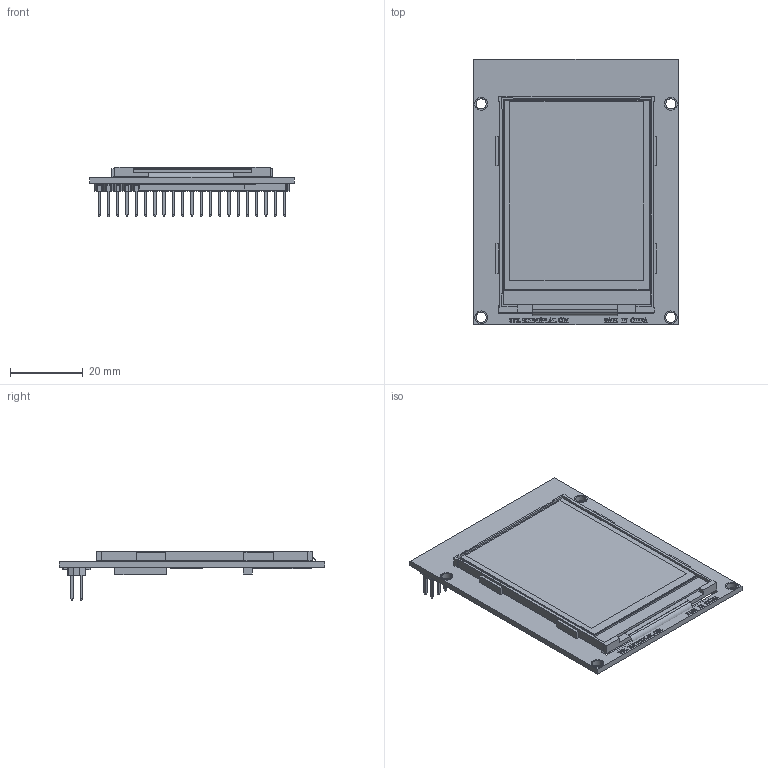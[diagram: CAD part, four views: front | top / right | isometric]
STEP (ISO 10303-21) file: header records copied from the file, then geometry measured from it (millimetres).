
FILE_DESCRIPTION (( 'STEP AP214' ), '1' );
FILE_NAME ('ER-TFTM024-3.STEP', '2024-06-07T03:41:53', ( '微软用户' ), ( '微软中国' ), 'SwSTEP 2.0', 'SolidWorks 2023', '' );
FILE_SCHEMA (( 'AUTOMOTIVE_DESIGN' ));
Length unit declared in the file: millimetre
Products named in the file (5): ER-TFT024-3; ER-TFTM024-3; 贴片排针2x20P; 2.4PCBA; buydisplay_logo_z
Assembly tree (4 placements, depth 2):
  ER-TFTM024-3
    2.4PCBA
    ER-TFT024-3
    贴片排针2x20P
    buydisplay_logo_z
Bounding box: 56 x 72.7 x 13.49 mm (x, y, z)
Volume: 13737.8 mm3; surface area: 23451.3 mm2
Topology: 185 solids, 185 shells, 2687 faces, 6755 edges, 4448 vertices
Faces by surface type: plane 2034, bspline 511, cylinder 142
Entity records: 104791 total; most frequent: CARTESIAN_POINT 37396, ORIENTED_EDGE 13510, DIRECTION 10391, EDGE_CURVE 6755, LINE 5433, VECTOR 5433, VERTEX_POINT 4448, EDGE_LOOP 2749
